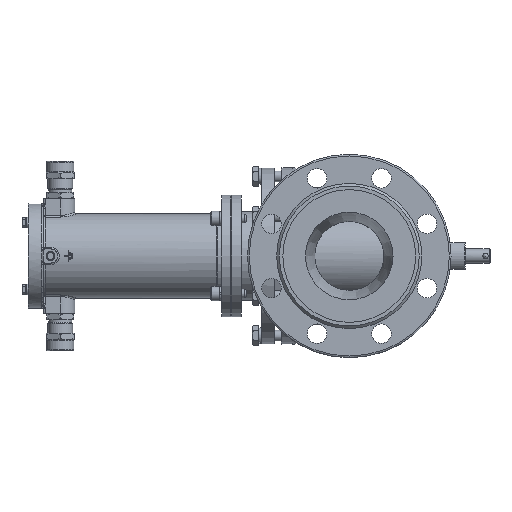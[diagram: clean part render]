
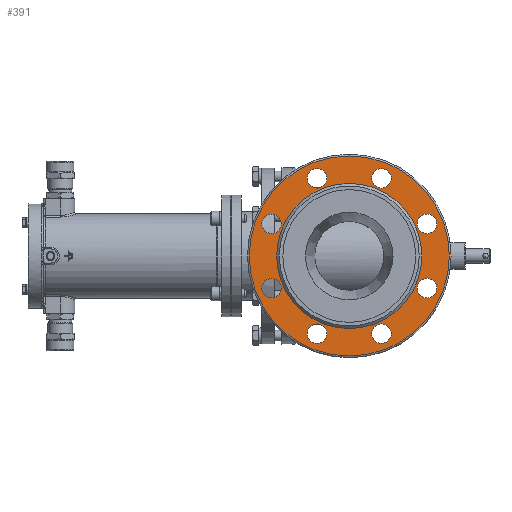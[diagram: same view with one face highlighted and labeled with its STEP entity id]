
A CAD part, left-side view. The second image highlights one B-rep face of the part: STEP entity #391.
In plain terms, the highlighted planar face has unit normal (-1, 0, 0).
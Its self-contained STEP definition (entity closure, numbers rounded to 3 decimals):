
#391=ADVANCED_FACE('',(#8068,#8070,#8072,#8074,#8076,#8078,#8080,#8082,#8084,#8086),
#8088,.T.);
#8068=FACE_BOUND('',#8069,.T.);
#8069=EDGE_LOOP('',(#24641));
#8070=FACE_BOUND('',#8071,.T.);
#8071=EDGE_LOOP('',(#24642));
#8072=FACE_BOUND('',#8073,.T.);
#8073=EDGE_LOOP('',(#24643));
#8074=FACE_BOUND('',#8075,.T.);
#8075=EDGE_LOOP('',(#24644));
#8076=FACE_BOUND('',#8077,.T.);
#8077=EDGE_LOOP('',(#24645));
#8078=FACE_BOUND('',#8079,.T.);
#8079=EDGE_LOOP('',(#24646));
#8080=FACE_BOUND('',#8081,.T.);
#8081=EDGE_LOOP('',(#24647));
#8082=FACE_BOUND('',#8083,.T.);
#8083=EDGE_LOOP('',(#24648));
#8084=FACE_BOUND('',#8085,.T.);
#8085=EDGE_LOOP('',(#24649));
#8086=FACE_OUTER_BOUND('',#8087,.T.);
#8087=EDGE_LOOP('',(#24650));
#8088=PLANE('',#8089);
#8089=AXIS2_PLACEMENT_3D('',#8090,#8091,#8092);
#8090=CARTESIAN_POINT('',(-151.,0.,0.));
#8091=DIRECTION('',(-1.,0.,0.));
#8092=DIRECTION('',(0.,1.,0.));
#24641=ORIENTED_EDGE('',*,*,#36869,.F.);
#24642=ORIENTED_EDGE('',*,*,#36836,.T.);
#24643=ORIENTED_EDGE('',*,*,#36834,.T.);
#24644=ORIENTED_EDGE('',*,*,#36832,.T.);
#24645=ORIENTED_EDGE('',*,*,#36830,.T.);
#24646=ORIENTED_EDGE('',*,*,#36828,.T.);
#24647=ORIENTED_EDGE('',*,*,#36826,.T.);
#24648=ORIENTED_EDGE('',*,*,#36824,.T.);
#24649=ORIENTED_EDGE('',*,*,#36822,.T.);
#24650=ORIENTED_EDGE('',*,*,#36870,.T.);
#36822=EDGE_CURVE('',#42517,#42517,#42519,.F.);
#36824=EDGE_CURVE('',#42520,#42520,#42522,.F.);
#36826=EDGE_CURVE('',#42523,#42523,#42525,.F.);
#36828=EDGE_CURVE('',#42526,#42526,#42528,.F.);
#36830=EDGE_CURVE('',#42529,#42529,#42531,.F.);
#36832=EDGE_CURVE('',#42532,#42532,#42534,.F.);
#36834=EDGE_CURVE('',#42535,#42535,#42537,.F.);
#36836=EDGE_CURVE('',#42538,#42538,#42540,.F.);
#36869=EDGE_CURVE('',#42598,#42598,#42599,.T.);
#36870=EDGE_CURVE('',#42600,#42600,#42601,.T.);
#42517=VERTEX_POINT('',#56602);
#42519=CIRCLE('',#56606,11.);
#42520=VERTEX_POINT('',#56610);
#42522=CIRCLE('',#56614,11.);
#42523=VERTEX_POINT('',#56618);
#42525=CIRCLE('',#56622,11.);
#42526=VERTEX_POINT('',#56626);
#42528=CIRCLE('',#56630,11.);
#42529=VERTEX_POINT('',#56634);
#42531=CIRCLE('',#56638,11.);
#42532=VERTEX_POINT('',#56642);
#42534=CIRCLE('',#56646,11.);
#42535=VERTEX_POINT('',#56650);
#42537=CIRCLE('',#56654,11.);
#42538=VERTEX_POINT('',#56658);
#42540=CIRCLE('',#56662,11.);
#42598=VERTEX_POINT('',#56922);
#42599=CIRCLE('',#56923,82.);
#42600=VERTEX_POINT('',#56927);
#42601=CIRCLE('',#56928,113.);
#56602=CARTESIAN_POINT('',(-151.,87.769,25.355));
#56606=AXIS2_PLACEMENT_3D('',#56607,#56608,#56609);
#56607=CARTESIAN_POINT('',(-151.,87.769,36.355));
#56608=DIRECTION('',(-1.,0.,0.));
#56609=DIRECTION('',(0.,0.,-1.));
#56610=CARTESIAN_POINT('',(-151.,87.769,-47.355));
#56614=AXIS2_PLACEMENT_3D('',#56615,#56616,#56617);
#56615=CARTESIAN_POINT('',(-151.,87.769,-36.355));
#56616=DIRECTION('',(-1.,0.,0.));
#56617=DIRECTION('',(0.,0.,-1.));
#56618=CARTESIAN_POINT('',(-151.,36.355,-98.769));
#56622=AXIS2_PLACEMENT_3D('',#56623,#56624,#56625);
#56623=CARTESIAN_POINT('',(-151.,36.355,-87.769));
#56624=DIRECTION('',(-1.,0.,0.));
#56625=DIRECTION('',(0.,0.,-1.));
#56626=CARTESIAN_POINT('',(-151.,36.355,76.769));
#56630=AXIS2_PLACEMENT_3D('',#56631,#56632,#56633);
#56631=CARTESIAN_POINT('',(-151.,36.355,87.769));
#56632=DIRECTION('',(-1.,0.,0.));
#56633=DIRECTION('',(0.,0.,-1.));
#56634=CARTESIAN_POINT('',(-151.,-87.769,25.355));
#56638=AXIS2_PLACEMENT_3D('',#56639,#56640,#56641);
#56639=CARTESIAN_POINT('',(-151.,-87.769,36.355));
#56640=DIRECTION('',(-1.,0.,0.));
#56641=DIRECTION('',(0.,0.,-1.));
#56642=CARTESIAN_POINT('',(-151.,-87.769,-47.355));
#56646=AXIS2_PLACEMENT_3D('',#56647,#56648,#56649);
#56647=CARTESIAN_POINT('',(-151.,-87.769,-36.355));
#56648=DIRECTION('',(-1.,0.,0.));
#56649=DIRECTION('',(0.,0.,-1.));
#56650=CARTESIAN_POINT('',(-151.,-36.355,-98.769));
#56654=AXIS2_PLACEMENT_3D('',#56655,#56656,#56657);
#56655=CARTESIAN_POINT('',(-151.,-36.355,-87.769));
#56656=DIRECTION('',(-1.,0.,0.));
#56657=DIRECTION('',(0.,0.,-1.));
#56658=CARTESIAN_POINT('',(-151.,-36.355,76.769));
#56662=AXIS2_PLACEMENT_3D('',#56663,#56664,#56665);
#56663=CARTESIAN_POINT('',(-151.,-36.355,87.769));
#56664=DIRECTION('',(-1.,0.,0.));
#56665=DIRECTION('',(0.,0.,-1.));
#56922=CARTESIAN_POINT('',(-151.,82.,0.));
#56923=AXIS2_PLACEMENT_3D('',#56924,#56925,#56926);
#56924=CARTESIAN_POINT('',(-151.,0.,0.));
#56925=DIRECTION('',(-1.,0.,0.));
#56926=DIRECTION('',(0.,1.,0.));
#56927=CARTESIAN_POINT('',(-151.,113.,0.));
#56928=AXIS2_PLACEMENT_3D('',#56929,#56930,#56931);
#56929=CARTESIAN_POINT('',(-151.,0.,0.));
#56930=DIRECTION('',(-1.,0.,0.));
#56931=DIRECTION('',(0.,1.,0.));
